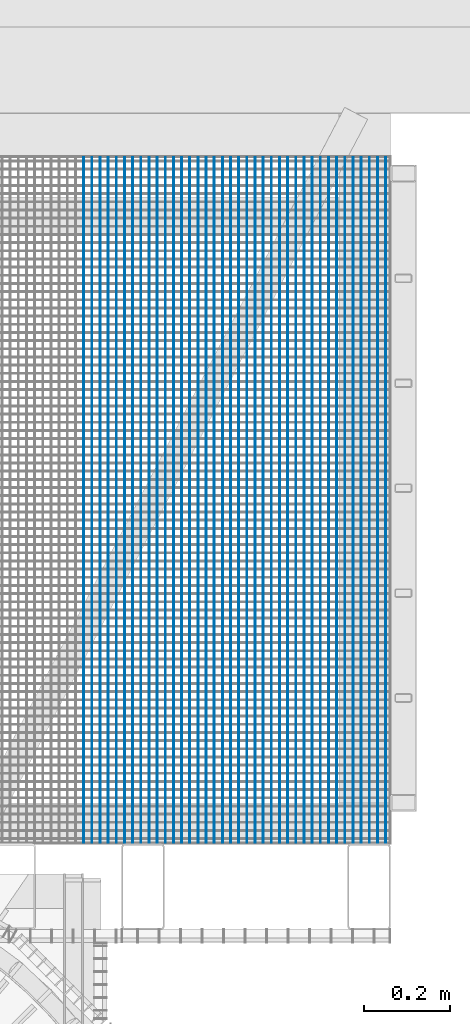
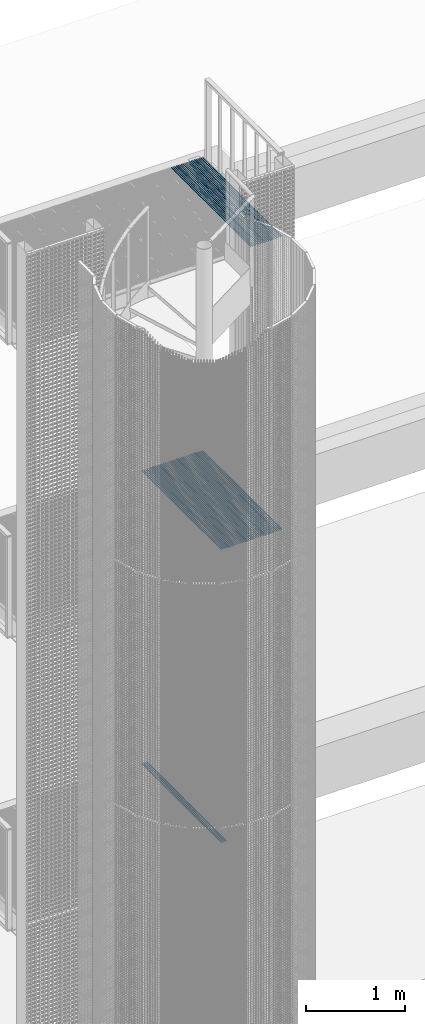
# One storey, part 100 of 1148: 62 beams, 3 elements without a shape of their own.
"""IFC2X3 building model written with IfcOpenShell, lengths in millimetres."""

import ifcopenshell
import ifcopenshell.guid

model = None  # the IFC model being written
_history = None  # IfcOwnerHistory: only IFC2X3 demands one
_inside = {}  # id of a spatial element -> (the spatial element, [elements in it])
_under = {}  # id of a project, library or spatial element -> (it, [spatial elements below it])
_declared = {}  # id of a project -> (the project, [libraries it declares])
_typed = {}  # id of a type object -> (the type object, [elements of that type])
_made_of = {}  # id of a material, layer set ... -> (it, [elements and type objects made of it])


def new_model(schema):
    """Start an empty IFC model of exactly this schema.

    Asked for "IFC4X3", IfcOpenShell would pick the latest addendum, in which some entities
    have other attributes; the version numbers below select the first issue.
    IFC2X3 requires an IfcOwnerHistory on every rooted entity: one is made here for all.
    """
    global model, _history
    if schema == "IFC4X3":
        model = ifcopenshell.file(schema_version=(4, 3, 0, 0))
    else:
        model = ifcopenshell.file(schema=schema)
    _inside.clear()
    _under.clear()
    _declared.clear()
    _typed.clear()
    _made_of.clear()
    _history = None
    if model.schema == "IFC2X3":
        org = make("IfcOrganization", Name="unknown")
        user = make(
            "IfcPersonAndOrganization",
            ThePerson=make("IfcPerson", FamilyName="unknown"),
            TheOrganization=org,
        )
        app = make(
            "IfcApplication",
            ApplicationDeveloper=org,
            Version="unknown",
            ApplicationFullName="unknown",
            ApplicationIdentifier="unknown",
        )
        _history = make(
            "IfcOwnerHistory",
            OwningUser=user,
            OwningApplication=app,
            ChangeAction="ADDED",
            CreationDate=0,
        )
    return model


def make(cls, **values):
    """One entity of the class cls with the attributes given. An attribute that is None is left unset."""
    return model.create_entity(
        cls, **{name: value for name, value in values.items() if value is not None}
    )


def rooted(cls, **values):
    """An entity with a GlobalId (a new one), such as an element, a storey or a relation."""
    return make(cls, GlobalId=ifcopenshell.guid.new(), OwnerHistory=_history, **values)


def si_unit(unit_type, name, prefix=None):
    """IfcSIUnit, for example si_unit("LENGTHUNIT", "METRE", prefix="MILLI")."""
    return make("IfcSIUnit", UnitType=unit_type, Prefix=prefix, Name=name)


def assignment(units):
    """IfcUnitAssignment: the units of a project."""
    return None if units is None else make("IfcUnitAssignment", Units=units)


def point(xyz):
    """IfcCartesianPoint."""
    return None if xyz is None else make("IfcCartesianPoint", Coordinates=xyz)


def direction(xyz):
    """IfcDirection."""
    return None if xyz is None else make("IfcDirection", DirectionRatios=xyz)


def frame(location, z_axis=None, x_axis=None):
    """IfcAxis2Placement3D, a coordinate frame: its origin and axes. An axis left out is left unset."""
    return make(
        "IfcAxis2Placement3D",
        Location=point(location),
        Axis=direction(z_axis),
        RefDirection=direction(x_axis),
    )


def frame_2d(location, x_axis=None):
    """IfcAxis2Placement2D, a coordinate frame in the plane: its origin and x axis."""
    return make(
        "IfcAxis2Placement2D", Location=point(location), RefDirection=direction(x_axis)
    )


def origin_with_axes():
    """The frame at (0, 0, 0) with the z axis (0, 0, 1) and the x axis (1, 0, 0) written out."""
    return frame((0.0, 0.0, 0.0), z_axis=(0.0, 0.0, 1.0), x_axis=(1.0, 0.0, 0.0))


def origin_2d_with_axis():
    """The frame at (0, 0) in the plane with the x axis (1, 0) written out."""
    return frame_2d((0.0, 0.0), x_axis=(1.0, 0.0))


def place(relative_to, where):
    """IfcLocalPlacement: puts the frame where relative to a parent placement (None: the world)."""
    return make(
        "IfcLocalPlacement", PlacementRelTo=relative_to, RelativePlacement=where
    )


def context(
    kind, dimensions, precision=None, world=None, true_north=None, identifier=None
):
    """IfcGeometricRepresentationContext, for example the 3D "Model" context."""
    return make(
        "IfcGeometricRepresentationContext",
        ContextIdentifier=identifier,
        ContextType=kind,
        CoordinateSpaceDimension=dimensions,
        Precision=precision,
        WorldCoordinateSystem=world,
        TrueNorth=true_north,
    )


def subcontext(parent, identifier, kind, view, scale=None):
    """IfcGeometricRepresentationSubContext, for example "Body" below "Model"."""
    return make(
        "IfcGeometricRepresentationSubContext",
        ContextIdentifier=identifier,
        ContextType=kind,
        ParentContext=parent,
        TargetScale=scale,
        TargetView=view,
    )


def project(units=None, contexts=None):
    """IfcProject with its units and contexts."""
    return rooted(
        "IfcProject",
        Name="project",
        RepresentationContexts=contexts,
        UnitsInContext=assignment(units),
    )


def spatial(cls, under=None, at=None, **own):
    """A site, building, storey or space (cls), placed at a placement, below another one or the project."""
    s = rooted(cls, ObjectPlacement=at, **own)
    if under is not None:
        _under.setdefault(under.id(), (under, []))[1].append(s)
    return s


def profile(cls, at=None, kind="AREA", **sizes):
    """A parametric profile (cls). Its sizes go by their IFC names, for example OverallWidth=200.0."""
    return make(cls, ProfileType=kind, Position=at, **sizes)


def rectangle(**sizes):
    """IfcRectangleProfileDef."""
    return profile("IfcRectangleProfileDef", **sizes)


def extrude(swept, where, along, depth):
    """IfcExtrudedAreaSolid: the profile swept, set in the frame where, extruded along a direction by depth."""
    return make(
        "IfcExtrudedAreaSolid",
        SweptArea=swept,
        Position=where,
        ExtrudedDirection=direction(along),
        Depth=depth,
    )


def shape(context_of_items, identifier, shape_type, items):
    """IfcShapeRepresentation: the items that make up one representation, for example the "Body"."""
    return make(
        "IfcShapeRepresentation",
        ContextOfItems=context_of_items,
        RepresentationIdentifier=identifier,
        RepresentationType=shape_type,
        Items=items,
    )


def material(Name=None, Category=None):
    """IfcMaterial."""
    return make("IfcMaterial", Name=Name, Category=Category)


def made_of(thing, what):
    """Note that an element or type object is made of a material, layer set ...; save() writes the relation."""
    if what is not None:
        _made_of.setdefault(what.id(), (what, []))[1].append(thing)
    return thing


def type_object(cls, material=None, **own):
    """A type object (cls), such as IfcWallType, which elements share."""
    return made_of(rooted(cls, **own), material)


def element(
    cls,
    number,
    at=None,
    inside=None,
    cuts=None,
    type_object=None,
    material=None,
    context=None,
    identifier="Body",
    shape_type=None,
    held_by="IfcProductDefinitionShape",
    body=None,
    shapes=None,
    **own,
):
    """One element of the class cls, such as IfcWall. Its Tag is "e" and its number.

    at: its placement. inside: the storey or other place that contains it. cuts: it is an
    opening in that element (IfcRelVoidsElement). A single representation is given by context,
    identifier, shape_type and body (its items); several are given by shapes. held_by: the class
    of the entity that holds the representations. save() writes the other relations.
    """
    e = rooted(cls, Tag="e%d" % number, ObjectPlacement=at, **own)
    if body is not None:
        shapes = [shape(context, identifier, shape_type, body)]
    if shapes is not None:
        e.Representation = make(held_by, Representations=shapes)
    if inside is not None:
        _inside.setdefault(inside.id(), (inside, []))[1].append(e)
    if cuts is not None:
        rooted(
            "IfcRelVoidsElement", RelatingBuildingElement=cuts, RelatedOpeningElement=e
        )
    if type_object is not None:
        _typed.setdefault(type_object.id(), (type_object, []))[1].append(e)
    return made_of(e, material)


def aggregate(whole, parts):
    """IfcRelAggregates: a whole, such as a stair, and the parts it consists of."""
    return rooted("IfcRelAggregates", RelatingObject=whole, RelatedObjects=parts)


def save(model, path):
    """Write the relations noted so far, then the file.

    IfcRelAggregates (storeys below a building ...), IfcRelContainedInSpatialStructure (elements
    in a storey), IfcRelDefinesByType, IfcRelAssociatesMaterial and IfcRelDeclares: one each for
    every whole, place, type object, material and project.
    """
    for whole, parts in _under.values():
        aggregate(whole, parts)
    for where, things in _inside.values():
        rooted(
            "IfcRelContainedInSpatialStructure",
            RelatedElements=things,
            RelatingStructure=where,
        )
    for kind, things in _typed.values():
        rooted("IfcRelDefinesByType", RelatedObjects=things, RelatingType=kind)
    for what, things in _made_of.values():
        rooted("IfcRelAssociatesMaterial", RelatedObjects=things, RelatingMaterial=what)
    for by, libraries in _declared.values():
        rooted("IfcRelDeclares", RelatingContext=by, RelatedDefinitions=libraries)
    model.write(path)


model = new_model("IFC2X3")

# Units and contexts
model_context = context("Model", 3, precision=1e-05, world=origin_with_axes())
body_context = subcontext(model_context, "Body", "Model", "MODEL_VIEW")
ifc_project = project(units=[si_unit("LENGTHUNIT", "METRE", prefix="MILLI"), si_unit("AREAUNIT", "SQUARE_METRE"), si_unit("VOLUMEUNIT", "CUBIC_METRE"), si_unit("MASSUNIT", "GRAM", prefix="KILO"), si_unit("TIMEUNIT", "SECOND"), si_unit("PLANEANGLEUNIT", "RADIAN"), si_unit("SOLIDANGLEUNIT", "STERADIAN"), si_unit("THERMODYNAMICTEMPERATUREUNIT", "DEGREE_CELSIUS"), si_unit("LUMINOUSINTENSITYUNIT", "LUMEN")], contexts=[model_context])

# Site, building, storey
site_placement = place(None, origin_with_axes())
site = spatial("IfcSite", under=ifc_project, at=site_placement, Name="Undefined", CompositionType="ELEMENT")
building_placement = place(site_placement, origin_with_axes())
building = spatial("IfcBuilding", under=site, at=building_placement, Name="Undefined", CompositionType="ELEMENT")
storey_placement = place(building_placement, origin_with_axes())
storey = spatial("IfcBuildingStorey", under=building, at=storey_placement, Name="Undefined", CompositionType="ELEMENT", Elevation=0.0)

# Assembly, beams
assembly_1_placement = place(storey_placement, origin_with_axes())
assembly_1 = element("IfcElementAssembly", 1, at=assembly_1_placement, inside=storey, Name="BORDURE", AssemblyPlace="NOTDEFINED", PredefinedType="NOTDEFINED")
ifc_material = material(Name="STEEL/S235JR")
beam_type = type_object("IfcBeamType", Name="PL2*10", PredefinedType="NOTDEFINED")
beam_1_placement = place(assembly_1_placement, frame((22778.1154247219, 1102.00811713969, 17285.0), z_axis=(0.0, 0.0, 1.0), x_axis=(-4.50599999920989e-06, 0.999999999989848, 0.0)))
beam_1 = element("IfcBeam", 2, at=beam_1_placement, type_object=beam_type, material=ifc_material, Name="ENTRETOISE", context=body_context, shape_type="SweptSolid", body=[
    extrude(rectangle(XDim=2.0, YDim=10.0, at=origin_2d_with_axis()), frame((1596.0000000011, -1.35186458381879e-18, -7.27595761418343e-12), z_axis=(-1.0, 0.0, 0.0), x_axis=(0.0, -1.0, 0.0)), (0.0, 0.0, 1.0), 1596.0),
])
beam_2_placement = place(assembly_1_placement, frame((22797.1154247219, 1102.00821065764, 17285.0), z_axis=(0.0, 0.0, 1.0), x_axis=(-4.50599999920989e-06, 0.999999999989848, 0.0)))
beam_2 = element("IfcBeam", 3, at=beam_2_placement, type_object=beam_type, material=ifc_material, Name="ENTRETOISE", context=body_context, shape_type="SweptSolid", body=[
    extrude(rectangle(XDim=2.0, YDim=10.0, at=origin_2d_with_axis()), frame((1596.0000000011, -1.35186458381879e-18, -7.27595761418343e-12), z_axis=(-1.0, 0.0, 0.0), x_axis=(0.0, -1.0, 0.0)), (0.0, 0.0, 1.0), 1596.0),
])
beam_3_placement = place(assembly_1_placement, frame((22816.1154247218, 1102.00830417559, 17285.0), z_axis=(0.0, 0.0, 1.0), x_axis=(-4.50599999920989e-06, 0.999999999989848, 0.0)))
beam_3 = element("IfcBeam", 4, at=beam_3_placement, type_object=beam_type, material=ifc_material, Name="ENTRETOISE", context=body_context, shape_type="SweptSolid", body=[
    extrude(rectangle(XDim=2.0, YDim=10.0, at=origin_2d_with_axis()), frame((1596.0000000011, -1.35186458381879e-18, -7.27595761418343e-12), z_axis=(-1.0, 0.0, 0.0), x_axis=(0.0, -1.0, 0.0)), (0.0, 0.0, 1.0), 1596.0),
])
beam_4_placement = place(assembly_1_placement, frame((22835.1154247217, 1102.00839769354, 17285.0), z_axis=(0.0, 0.0, 1.0), x_axis=(-4.50599999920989e-06, 0.999999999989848, 0.0)))
beam_4 = element("IfcBeam", 5, at=beam_4_placement, type_object=beam_type, material=ifc_material, Name="ENTRETOISE", context=body_context, shape_type="SweptSolid", body=[
    extrude(rectangle(XDim=2.0, YDim=10.0, at=origin_2d_with_axis()), frame((1596.0000000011, -1.35186458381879e-18, -7.27595761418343e-12), z_axis=(-1.0, 0.0, 0.0), x_axis=(0.0, -1.0, 0.0)), (0.0, 0.0, 1.0), 1596.0),
])
beam_5_placement = place(assembly_1_placement, frame((22854.1154247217, 1102.00849121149, 17285.0), z_axis=(0.0, 0.0, 1.0), x_axis=(-4.50599999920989e-06, 0.999999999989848, 0.0)))
beam_5 = element("IfcBeam", 6, at=beam_5_placement, type_object=beam_type, material=ifc_material, Name="ENTRETOISE", context=body_context, shape_type="SweptSolid", body=[
    extrude(rectangle(XDim=2.0, YDim=10.0, at=origin_2d_with_axis()), frame((1596.0000000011, -1.35186458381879e-18, -7.27595761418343e-12), z_axis=(-1.0, 0.0, 0.0), x_axis=(0.0, -1.0, 0.0)), (0.0, 0.0, 1.0), 1596.0),
])
beam_6_placement = place(assembly_1_placement, frame((22873.1154247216, 1102.00858472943, 17285.0), z_axis=(0.0, 0.0, 1.0), x_axis=(-4.50599999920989e-06, 0.999999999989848, 0.0)))
beam_6 = element("IfcBeam", 7, at=beam_6_placement, type_object=beam_type, material=ifc_material, Name="ENTRETOISE", context=body_context, shape_type="SweptSolid", body=[
    extrude(rectangle(XDim=2.0, YDim=10.0, at=origin_2d_with_axis()), frame((1596.0000000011, -1.35186458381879e-18, -7.27595761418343e-12), z_axis=(-1.0, 0.0, 0.0), x_axis=(0.0, -1.0, 0.0)), (0.0, 0.0, 1.0), 1596.0),
])
beam_7_placement = place(assembly_1_placement, frame((22892.1154247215, 1102.00867824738, 17285.0), z_axis=(0.0, 0.0, 1.0), x_axis=(-4.50599999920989e-06, 0.999999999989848, 0.0)))
beam_7 = element("IfcBeam", 8, at=beam_7_placement, type_object=beam_type, material=ifc_material, Name="ENTRETOISE", context=body_context, shape_type="SweptSolid", body=[
    extrude(rectangle(XDim=2.0, YDim=10.0, at=origin_2d_with_axis()), frame((1596.0000000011, -1.35186458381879e-18, -7.27595761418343e-12), z_axis=(-1.0, 0.0, 0.0), x_axis=(0.0, -1.0, 0.0)), (0.0, 0.0, 1.0), 1596.0),
])
beam_8_placement = place(assembly_1_placement, frame((22911.1154247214, 1102.00877176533, 17285.0), z_axis=(0.0, 0.0, 1.0), x_axis=(-4.50599999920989e-06, 0.999999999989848, 0.0)))
beam_8 = element("IfcBeam", 9, at=beam_8_placement, type_object=beam_type, material=ifc_material, Name="ENTRETOISE", context=body_context, shape_type="SweptSolid", body=[
    extrude(rectangle(XDim=2.0, YDim=10.0, at=origin_2d_with_axis()), frame((1596.0000000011, -1.35186458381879e-18, -7.27595761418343e-12), z_axis=(-1.0, 0.0, 0.0), x_axis=(0.0, -1.0, 0.0)), (0.0, 0.0, 1.0), 1596.0),
])
beam_9_placement = place(assembly_1_placement, frame((22930.1154247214, 1102.00886528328, 17285.0), z_axis=(0.0, 0.0, 1.0), x_axis=(-4.50599999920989e-06, 0.999999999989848, 0.0)))
beam_9 = element("IfcBeam", 10, at=beam_9_placement, type_object=beam_type, material=ifc_material, Name="ENTRETOISE", context=body_context, shape_type="SweptSolid", body=[
    extrude(rectangle(XDim=2.0, YDim=10.0, at=origin_2d_with_axis()), frame((1596.0000000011, -1.35186458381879e-18, -7.27595761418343e-12), z_axis=(-1.0, 0.0, 0.0), x_axis=(0.0, -1.0, 0.0)), (0.0, 0.0, 1.0), 1596.0),
])
beam_10_placement = place(assembly_1_placement, frame((22949.1154247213, 1102.00895880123, 17285.0), z_axis=(0.0, 0.0, 1.0), x_axis=(-4.50599999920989e-06, 0.999999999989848, 0.0)))
beam_10 = element("IfcBeam", 11, at=beam_10_placement, type_object=beam_type, material=ifc_material, Name="ENTRETOISE", context=body_context, shape_type="SweptSolid", body=[
    extrude(rectangle(XDim=2.0, YDim=10.0, at=origin_2d_with_axis()), frame((1596.0000000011, -1.35186458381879e-18, -7.27595761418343e-12), z_axis=(-1.0, 0.0, 0.0), x_axis=(0.0, -1.0, 0.0)), (0.0, 0.0, 1.0), 1596.0),
])
beam_11_placement = place(assembly_1_placement, frame((22968.1154247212, 1102.00905231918, 17285.0), z_axis=(0.0, 0.0, 1.0), x_axis=(-4.50599999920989e-06, 0.999999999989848, 0.0)))
beam_11 = element("IfcBeam", 12, at=beam_11_placement, type_object=beam_type, material=ifc_material, Name="ENTRETOISE", context=body_context, shape_type="SweptSolid", body=[
    extrude(rectangle(XDim=2.0, YDim=10.0, at=origin_2d_with_axis()), frame((1596.0000000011, -1.35186458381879e-18, -7.27595761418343e-12), z_axis=(-1.0, 0.0, 0.0), x_axis=(0.0, -1.0, 0.0)), (0.0, 0.0, 1.0), 1596.0),
])
beam_12_placement = place(assembly_1_placement, frame((22987.1154247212, 1102.00914583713, 17285.0), z_axis=(0.0, 0.0, 1.0), x_axis=(-4.50599999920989e-06, 0.999999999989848, 0.0)))
beam_12 = element("IfcBeam", 13, at=beam_12_placement, type_object=beam_type, material=ifc_material, Name="ENTRETOISE", context=body_context, shape_type="SweptSolid", body=[
    extrude(rectangle(XDim=2.0, YDim=10.0, at=origin_2d_with_axis()), frame((1596.0000000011, -1.35186458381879e-18, -7.27595761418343e-12), z_axis=(-1.0, 0.0, 0.0), x_axis=(0.0, -1.0, 0.0)), (0.0, 0.0, 1.0), 1596.0),
])
beam_13_placement = place(assembly_1_placement, frame((23006.1154247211, 1102.00923935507, 17285.0), z_axis=(0.0, 0.0, 1.0), x_axis=(-4.50599999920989e-06, 0.999999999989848, 0.0)))
beam_13 = element("IfcBeam", 14, at=beam_13_placement, type_object=beam_type, material=ifc_material, Name="ENTRETOISE", context=body_context, shape_type="SweptSolid", body=[
    extrude(rectangle(XDim=2.0, YDim=10.0, at=origin_2d_with_axis()), frame((1596.0000000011, -1.35186458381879e-18, -7.27595761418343e-12), z_axis=(-1.0, 0.0, 0.0), x_axis=(0.0, -1.0, 0.0)), (0.0, 0.0, 1.0), 1596.0),
])
beam_14_placement = place(assembly_1_placement, frame((23025.115424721, 1102.00933287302, 17285.0), z_axis=(0.0, 0.0, 1.0), x_axis=(-4.50599999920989e-06, 0.999999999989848, 0.0)))
beam_14 = element("IfcBeam", 15, at=beam_14_placement, type_object=beam_type, material=ifc_material, Name="ENTRETOISE", context=body_context, shape_type="SweptSolid", body=[
    extrude(rectangle(XDim=2.0, YDim=10.0, at=origin_2d_with_axis()), frame((1596.0000000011, -1.35186458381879e-18, -7.27595761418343e-12), z_axis=(-1.0, 0.0, 0.0), x_axis=(0.0, -1.0, 0.0)), (0.0, 0.0, 1.0), 1596.0),
])
beam_15_placement = place(assembly_1_placement, frame((23044.1154247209, 1102.00942639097, 17285.0), z_axis=(0.0, 0.0, 1.0), x_axis=(-4.50599999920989e-06, 0.999999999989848, 0.0)))
beam_15 = element("IfcBeam", 16, at=beam_15_placement, type_object=beam_type, material=ifc_material, Name="ENTRETOISE", context=body_context, shape_type="SweptSolid", body=[
    extrude(rectangle(XDim=2.0, YDim=10.0, at=origin_2d_with_axis()), frame((1596.0000000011, -1.35186458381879e-18, -7.27595761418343e-12), z_axis=(-1.0, 0.0, 0.0), x_axis=(0.0, -1.0, 0.0)), (0.0, 0.0, 1.0), 1596.0),
])
beam_16_placement = place(assembly_1_placement, frame((23063.1154247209, 1102.00951990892, 17285.0), z_axis=(0.0, 0.0, 1.0), x_axis=(-4.50599999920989e-06, 0.999999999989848, 0.0)))
beam_16 = element("IfcBeam", 17, at=beam_16_placement, type_object=beam_type, material=ifc_material, Name="ENTRETOISE", context=body_context, shape_type="SweptSolid", body=[
    extrude(rectangle(XDim=2.0, YDim=10.0, at=origin_2d_with_axis()), frame((1596.0000000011, -1.35186458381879e-18, -7.27595761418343e-12), z_axis=(-1.0, 0.0, 0.0), x_axis=(0.0, -1.0, 0.0)), (0.0, 0.0, 1.0), 1596.0),
])
beam_17_placement = place(assembly_1_placement, frame((23082.1154247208, 1102.00961342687, 17285.0), z_axis=(0.0, 0.0, 1.0), x_axis=(-4.50599999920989e-06, 0.999999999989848, 0.0)))
beam_17 = element("IfcBeam", 18, at=beam_17_placement, type_object=beam_type, material=ifc_material, Name="ENTRETOISE", context=body_context, shape_type="SweptSolid", body=[
    extrude(rectangle(XDim=2.0, YDim=10.0, at=origin_2d_with_axis()), frame((1596.0000000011, -1.35186458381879e-18, -7.27595761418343e-12), z_axis=(-1.0, 0.0, 0.0), x_axis=(0.0, -1.0, 0.0)), (0.0, 0.0, 1.0), 1596.0),
])
beam_18_placement = place(assembly_1_placement, frame((23101.1154247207, 1102.00970694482, 17285.0), z_axis=(0.0, 0.0, 1.0), x_axis=(-4.50599999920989e-06, 0.999999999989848, 0.0)))
beam_18 = element("IfcBeam", 19, at=beam_18_placement, type_object=beam_type, material=ifc_material, Name="ENTRETOISE", context=body_context, shape_type="SweptSolid", body=[
    extrude(rectangle(XDim=2.0, YDim=10.0, at=origin_2d_with_axis()), frame((1596.0000000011, -1.35186458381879e-18, -7.27595761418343e-12), z_axis=(-1.0, 0.0, 0.0), x_axis=(0.0, -1.0, 0.0)), (0.0, 0.0, 1.0), 1596.0),
])
beam_19_placement = place(assembly_1_placement, frame((23120.1154247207, 1102.00980046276, 17285.0), z_axis=(0.0, 0.0, 1.0), x_axis=(-4.50599999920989e-06, 0.999999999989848, 0.0)))
beam_19 = element("IfcBeam", 20, at=beam_19_placement, type_object=beam_type, material=ifc_material, Name="ENTRETOISE", context=body_context, shape_type="SweptSolid", body=[
    extrude(rectangle(XDim=2.0, YDim=10.0, at=origin_2d_with_axis()), frame((1596.0000000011, -1.35186458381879e-18, -7.27595761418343e-12), z_axis=(-1.0, 0.0, 0.0), x_axis=(0.0, -1.0, 0.0)), (0.0, 0.0, 1.0), 1596.0),
])
beam_20_placement = place(assembly_1_placement, frame((23139.1154247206, 1102.00989398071, 17285.0), z_axis=(0.0, 0.0, 1.0), x_axis=(-4.50599999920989e-06, 0.999999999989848, 0.0)))
beam_20 = element("IfcBeam", 21, at=beam_20_placement, type_object=beam_type, material=ifc_material, Name="ENTRETOISE", context=body_context, shape_type="SweptSolid", body=[
    extrude(rectangle(XDim=2.0, YDim=10.0, at=origin_2d_with_axis()), frame((1596.0000000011, -1.35186458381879e-18, -7.27595761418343e-12), z_axis=(-1.0, 0.0, 0.0), x_axis=(0.0, -1.0, 0.0)), (0.0, 0.0, 1.0), 1596.0),
])
aggregate(assembly_1, [beam_1, beam_2, beam_3, beam_4, beam_5, beam_6, beam_7, beam_8, beam_9, beam_10, beam_11, beam_12, beam_13, beam_14, beam_15, beam_16, beam_17, beam_18, beam_19, beam_20])

assembly_2_placement = place(storey_placement, origin_with_axes())
assembly_2 = element("IfcElementAssembly", 22, at=assembly_2_placement, inside=storey, Name="BORDURE", AssemblyPlace="NOTDEFINED", PredefinedType="NOTDEFINED")
beam_21_placement = place(assembly_2_placement, frame((22436.1154247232, 1102.00643381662, 13685.0), z_axis=(0.0, 0.0, 1.0), x_axis=(-4.50599999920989e-06, 0.999999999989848, 0.0)))
beam_21 = element("IfcBeam", 23, at=beam_21_placement, type_object=beam_type, material=ifc_material, Name="ENTRETOISE", context=body_context, shape_type="SweptSolid", body=[
    extrude(rectangle(XDim=2.0, YDim=10.0, at=origin_2d_with_axis()), frame((1596.0000000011, -1.35186458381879e-18, -7.27595761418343e-12), z_axis=(-1.0, 0.0, 0.0), x_axis=(0.0, -1.0, 0.0)), (0.0, 0.0, 1.0), 1596.0),
])
beam_22_placement = place(assembly_2_placement, frame((22455.1154247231, 1102.00652733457, 13685.0), z_axis=(0.0, 0.0, 1.0), x_axis=(-4.50599999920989e-06, 0.999999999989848, 0.0)))
beam_22 = element("IfcBeam", 24, at=beam_22_placement, type_object=beam_type, material=ifc_material, Name="ENTRETOISE", context=body_context, shape_type="SweptSolid", body=[
    extrude(rectangle(XDim=2.0, YDim=10.0, at=origin_2d_with_axis()), frame((1596.0000000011, -1.35186458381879e-18, -7.27595761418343e-12), z_axis=(-1.0, 0.0, 0.0), x_axis=(0.0, -1.0, 0.0)), (0.0, 0.0, 1.0), 1596.0),
])
beam_23_placement = place(assembly_2_placement, frame((22474.1154247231, 1102.00662085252, 13685.0), z_axis=(0.0, 0.0, 1.0), x_axis=(-4.50599999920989e-06, 0.999999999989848, 0.0)))
beam_23 = element("IfcBeam", 25, at=beam_23_placement, type_object=beam_type, material=ifc_material, Name="ENTRETOISE", context=body_context, shape_type="SweptSolid", body=[
    extrude(rectangle(XDim=2.0, YDim=10.0, at=origin_2d_with_axis()), frame((1596.0000000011, -1.35186458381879e-18, -7.27595761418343e-12), z_axis=(-1.0, 0.0, 0.0), x_axis=(0.0, -1.0, 0.0)), (0.0, 0.0, 1.0), 1596.0),
])
beam_24_placement = place(assembly_2_placement, frame((22493.115424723, 1102.00671437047, 13685.0), z_axis=(0.0, 0.0, 1.0), x_axis=(-4.50599999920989e-06, 0.999999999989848, 0.0)))
beam_24 = element("IfcBeam", 26, at=beam_24_placement, type_object=beam_type, material=ifc_material, Name="ENTRETOISE", context=body_context, shape_type="SweptSolid", body=[
    extrude(rectangle(XDim=2.0, YDim=10.0, at=origin_2d_with_axis()), frame((1596.0000000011, -1.35186458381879e-18, -7.27595761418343e-12), z_axis=(-1.0, 0.0, 0.0), x_axis=(0.0, -1.0, 0.0)), (0.0, 0.0, 1.0), 1596.0),
])
beam_25_placement = place(assembly_2_placement, frame((22512.1154247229, 1102.00680788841, 13685.0), z_axis=(0.0, 0.0, 1.0), x_axis=(-4.50599999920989e-06, 0.999999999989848, 0.0)))
beam_25 = element("IfcBeam", 27, at=beam_25_placement, type_object=beam_type, material=ifc_material, Name="ENTRETOISE", context=body_context, shape_type="SweptSolid", body=[
    extrude(rectangle(XDim=2.0, YDim=10.0, at=origin_2d_with_axis()), frame((1596.0000000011, -1.35186458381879e-18, -7.27595761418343e-12), z_axis=(-1.0, 0.0, 0.0), x_axis=(0.0, -1.0, 0.0)), (0.0, 0.0, 1.0), 1596.0),
])
beam_26_placement = place(assembly_2_placement, frame((22531.1154247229, 1102.00690140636, 13685.0), z_axis=(0.0, 0.0, 1.0), x_axis=(-4.50599999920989e-06, 0.999999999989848, 0.0)))
beam_26 = element("IfcBeam", 28, at=beam_26_placement, type_object=beam_type, material=ifc_material, Name="ENTRETOISE", context=body_context, shape_type="SweptSolid", body=[
    extrude(rectangle(XDim=2.0, YDim=10.0, at=origin_2d_with_axis()), frame((1596.0000000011, -1.35186458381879e-18, -7.27595761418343e-12), z_axis=(-1.0, 0.0, 0.0), x_axis=(0.0, -1.0, 0.0)), (0.0, 0.0, 1.0), 1596.0),
])
beam_27_placement = place(assembly_2_placement, frame((22550.1154247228, 1102.00699492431, 13685.0), z_axis=(0.0, 0.0, 1.0), x_axis=(-4.50599999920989e-06, 0.999999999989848, 0.0)))
beam_27 = element("IfcBeam", 29, at=beam_27_placement, type_object=beam_type, material=ifc_material, Name="ENTRETOISE", context=body_context, shape_type="SweptSolid", body=[
    extrude(rectangle(XDim=2.0, YDim=10.0, at=origin_2d_with_axis()), frame((1596.0000000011, -1.35186458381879e-18, -7.27595761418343e-12), z_axis=(-1.0, 0.0, 0.0), x_axis=(0.0, -1.0, 0.0)), (0.0, 0.0, 1.0), 1596.0),
])
beam_28_placement = place(assembly_2_placement, frame((22569.1154247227, 1102.00708844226, 13685.0), z_axis=(0.0, 0.0, 1.0), x_axis=(-4.50599999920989e-06, 0.999999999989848, 0.0)))
beam_28 = element("IfcBeam", 30, at=beam_28_placement, type_object=beam_type, material=ifc_material, Name="ENTRETOISE", context=body_context, shape_type="SweptSolid", body=[
    extrude(rectangle(XDim=2.0, YDim=10.0, at=origin_2d_with_axis()), frame((1596.0000000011, -1.35186458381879e-18, -7.27595761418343e-12), z_axis=(-1.0, 0.0, 0.0), x_axis=(0.0, -1.0, 0.0)), (0.0, 0.0, 1.0), 1596.0),
])
beam_29_placement = place(assembly_2_placement, frame((22588.1154247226, 1102.00718196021, 13685.0), z_axis=(0.0, 0.0, 1.0), x_axis=(-4.50599999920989e-06, 0.999999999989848, 0.0)))
beam_29 = element("IfcBeam", 31, at=beam_29_placement, type_object=beam_type, material=ifc_material, Name="ENTRETOISE", context=body_context, shape_type="SweptSolid", body=[
    extrude(rectangle(XDim=2.0, YDim=10.0, at=origin_2d_with_axis()), frame((1596.0000000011, -1.35186458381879e-18, -7.27595761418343e-12), z_axis=(-1.0, 0.0, 0.0), x_axis=(0.0, -1.0, 0.0)), (0.0, 0.0, 1.0), 1596.0),
])
beam_30_placement = place(assembly_2_placement, frame((22607.1154247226, 1102.00727547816, 13685.0), z_axis=(0.0, 0.0, 1.0), x_axis=(-4.50599999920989e-06, 0.999999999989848, 0.0)))
beam_30 = element("IfcBeam", 32, at=beam_30_placement, type_object=beam_type, material=ifc_material, Name="ENTRETOISE", context=body_context, shape_type="SweptSolid", body=[
    extrude(rectangle(XDim=2.0, YDim=10.0, at=origin_2d_with_axis()), frame((1596.0000000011, -1.35186458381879e-18, -7.27595761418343e-12), z_axis=(-1.0, 0.0, 0.0), x_axis=(0.0, -1.0, 0.0)), (0.0, 0.0, 1.0), 1596.0),
])
beam_31_placement = place(assembly_2_placement, frame((22626.1154247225, 1102.00736899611, 13685.0), z_axis=(0.0, 0.0, 1.0), x_axis=(-4.50599999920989e-06, 0.999999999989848, 0.0)))
beam_31 = element("IfcBeam", 33, at=beam_31_placement, type_object=beam_type, material=ifc_material, Name="ENTRETOISE", context=body_context, shape_type="SweptSolid", body=[
    extrude(rectangle(XDim=2.0, YDim=10.0, at=origin_2d_with_axis()), frame((1596.0000000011, -1.35186458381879e-18, -7.27595761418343e-12), z_axis=(-1.0, 0.0, 0.0), x_axis=(0.0, -1.0, 0.0)), (0.0, 0.0, 1.0), 1596.0),
])
beam_32_placement = place(assembly_2_placement, frame((22645.1154247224, 1102.00746251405, 13685.0), z_axis=(0.0, 0.0, 1.0), x_axis=(-4.50599999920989e-06, 0.999999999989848, 0.0)))
beam_32 = element("IfcBeam", 34, at=beam_32_placement, type_object=beam_type, material=ifc_material, Name="ENTRETOISE", context=body_context, shape_type="SweptSolid", body=[
    extrude(rectangle(XDim=2.0, YDim=10.0, at=origin_2d_with_axis()), frame((1596.0000000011, -1.35186458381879e-18, -7.27595761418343e-12), z_axis=(-1.0, 0.0, 0.0), x_axis=(0.0, -1.0, 0.0)), (0.0, 0.0, 1.0), 1596.0),
])
beam_33_placement = place(assembly_2_placement, frame((22664.1154247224, 1102.007556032, 13685.0), z_axis=(0.0, 0.0, 1.0), x_axis=(-4.50599999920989e-06, 0.999999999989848, 0.0)))
beam_33 = element("IfcBeam", 35, at=beam_33_placement, type_object=beam_type, material=ifc_material, Name="ENTRETOISE", context=body_context, shape_type="SweptSolid", body=[
    extrude(rectangle(XDim=2.0, YDim=10.0, at=origin_2d_with_axis()), frame((1596.0000000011, -1.35186458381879e-18, -7.27595761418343e-12), z_axis=(-1.0, 0.0, 0.0), x_axis=(0.0, -1.0, 0.0)), (0.0, 0.0, 1.0), 1596.0),
])
beam_34_placement = place(assembly_2_placement, frame((22683.1154247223, 1102.00764954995, 13685.0), z_axis=(0.0, 0.0, 1.0), x_axis=(-4.50599999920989e-06, 0.999999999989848, 0.0)))
beam_34 = element("IfcBeam", 36, at=beam_34_placement, type_object=beam_type, material=ifc_material, Name="ENTRETOISE", context=body_context, shape_type="SweptSolid", body=[
    extrude(rectangle(XDim=2.0, YDim=10.0, at=origin_2d_with_axis()), frame((1596.0000000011, -1.35186458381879e-18, -7.27595761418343e-12), z_axis=(-1.0, 0.0, 0.0), x_axis=(0.0, -1.0, 0.0)), (0.0, 0.0, 1.0), 1596.0),
])
beam_35_placement = place(assembly_2_placement, frame((22702.1154247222, 1102.0077430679, 13685.0), z_axis=(0.0, 0.0, 1.0), x_axis=(-4.50599999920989e-06, 0.999999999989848, 0.0)))
beam_35 = element("IfcBeam", 37, at=beam_35_placement, type_object=beam_type, material=ifc_material, Name="ENTRETOISE", context=body_context, shape_type="SweptSolid", body=[
    extrude(rectangle(XDim=2.0, YDim=10.0, at=origin_2d_with_axis()), frame((1596.0000000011, -1.35186458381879e-18, -7.27595761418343e-12), z_axis=(-1.0, 0.0, 0.0), x_axis=(0.0, -1.0, 0.0)), (0.0, 0.0, 1.0), 1596.0),
])
beam_36_placement = place(assembly_2_placement, frame((22721.1154247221, 1102.00783658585, 13685.0), z_axis=(0.0, 0.0, 1.0), x_axis=(-4.50599999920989e-06, 0.999999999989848, 0.0)))
beam_36 = element("IfcBeam", 38, at=beam_36_placement, type_object=beam_type, material=ifc_material, Name="ENTRETOISE", context=body_context, shape_type="SweptSolid", body=[
    extrude(rectangle(XDim=2.0, YDim=10.0, at=origin_2d_with_axis()), frame((1596.0000000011, -1.35186458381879e-18, -7.27595761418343e-12), z_axis=(-1.0, 0.0, 0.0), x_axis=(0.0, -1.0, 0.0)), (0.0, 0.0, 1.0), 1596.0),
])
beam_37_placement = place(assembly_2_placement, frame((22740.1154247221, 1102.0079301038, 13685.0), z_axis=(0.0, 0.0, 1.0), x_axis=(-4.50599999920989e-06, 0.999999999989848, 0.0)))
beam_37 = element("IfcBeam", 39, at=beam_37_placement, type_object=beam_type, material=ifc_material, Name="ENTRETOISE", context=body_context, shape_type="SweptSolid", body=[
    extrude(rectangle(XDim=2.0, YDim=10.0, at=origin_2d_with_axis()), frame((1596.0000000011, -1.35186458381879e-18, -7.27595761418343e-12), z_axis=(-1.0, 0.0, 0.0), x_axis=(0.0, -1.0, 0.0)), (0.0, 0.0, 1.0), 1596.0),
])
beam_38_placement = place(assembly_2_placement, frame((22759.115424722, 1102.00802362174, 13685.0), z_axis=(0.0, 0.0, 1.0), x_axis=(-4.50599999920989e-06, 0.999999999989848, 0.0)))
beam_38 = element("IfcBeam", 40, at=beam_38_placement, type_object=beam_type, material=ifc_material, Name="ENTRETOISE", context=body_context, shape_type="SweptSolid", body=[
    extrude(rectangle(XDim=2.0, YDim=10.0, at=origin_2d_with_axis()), frame((1596.0000000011, -1.35186458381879e-18, -7.27595761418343e-12), z_axis=(-1.0, 0.0, 0.0), x_axis=(0.0, -1.0, 0.0)), (0.0, 0.0, 1.0), 1596.0),
])
beam_39_placement = place(assembly_2_placement, frame((22778.1154247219, 1102.00811713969, 13685.0), z_axis=(0.0, 0.0, 1.0), x_axis=(-4.50599999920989e-06, 0.999999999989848, 0.0)))
beam_39 = element("IfcBeam", 41, at=beam_39_placement, type_object=beam_type, material=ifc_material, Name="ENTRETOISE", context=body_context, shape_type="SweptSolid", body=[
    extrude(rectangle(XDim=2.0, YDim=10.0, at=origin_2d_with_axis()), frame((1596.0000000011, -1.35186458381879e-18, -7.27595761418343e-12), z_axis=(-1.0, 0.0, 0.0), x_axis=(0.0, -1.0, 0.0)), (0.0, 0.0, 1.0), 1596.0),
])
beam_40_placement = place(assembly_2_placement, frame((22797.1154247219, 1102.00821065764, 13685.0), z_axis=(0.0, 0.0, 1.0), x_axis=(-4.50599999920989e-06, 0.999999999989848, 0.0)))
beam_40 = element("IfcBeam", 42, at=beam_40_placement, type_object=beam_type, material=ifc_material, Name="ENTRETOISE", context=body_context, shape_type="SweptSolid", body=[
    extrude(rectangle(XDim=2.0, YDim=10.0, at=origin_2d_with_axis()), frame((1596.0000000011, -1.35186458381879e-18, -7.27595761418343e-12), z_axis=(-1.0, 0.0, 0.0), x_axis=(0.0, -1.0, 0.0)), (0.0, 0.0, 1.0), 1596.0),
])
beam_41_placement = place(assembly_2_placement, frame((22816.1154247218, 1102.00830417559, 13685.0), z_axis=(0.0, 0.0, 1.0), x_axis=(-4.50599999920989e-06, 0.999999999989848, 0.0)))
beam_41 = element("IfcBeam", 43, at=beam_41_placement, type_object=beam_type, material=ifc_material, Name="ENTRETOISE", context=body_context, shape_type="SweptSolid", body=[
    extrude(rectangle(XDim=2.0, YDim=10.0, at=origin_2d_with_axis()), frame((1596.0000000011, -1.35186458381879e-18, -7.27595761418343e-12), z_axis=(-1.0, 0.0, 0.0), x_axis=(0.0, -1.0, 0.0)), (0.0, 0.0, 1.0), 1596.0),
])
beam_42_placement = place(assembly_2_placement, frame((22835.1154247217, 1102.00839769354, 13685.0), z_axis=(0.0, 0.0, 1.0), x_axis=(-4.50599999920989e-06, 0.999999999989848, 0.0)))
beam_42 = element("IfcBeam", 44, at=beam_42_placement, type_object=beam_type, material=ifc_material, Name="ENTRETOISE", context=body_context, shape_type="SweptSolid", body=[
    extrude(rectangle(XDim=2.0, YDim=10.0, at=origin_2d_with_axis()), frame((1596.0000000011, -1.35186458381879e-18, -7.27595761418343e-12), z_axis=(-1.0, 0.0, 0.0), x_axis=(0.0, -1.0, 0.0)), (0.0, 0.0, 1.0), 1596.0),
])
beam_43_placement = place(assembly_2_placement, frame((22854.1154247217, 1102.00849121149, 13685.0), z_axis=(0.0, 0.0, 1.0), x_axis=(-4.50599999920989e-06, 0.999999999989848, 0.0)))
beam_43 = element("IfcBeam", 45, at=beam_43_placement, type_object=beam_type, material=ifc_material, Name="ENTRETOISE", context=body_context, shape_type="SweptSolid", body=[
    extrude(rectangle(XDim=2.0, YDim=10.0, at=origin_2d_with_axis()), frame((1596.0000000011, -1.35186458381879e-18, -7.27595761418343e-12), z_axis=(-1.0, 0.0, 0.0), x_axis=(0.0, -1.0, 0.0)), (0.0, 0.0, 1.0), 1596.0),
])
beam_44_placement = place(assembly_2_placement, frame((22873.1154247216, 1102.00858472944, 13685.0), z_axis=(0.0, 0.0, 1.0), x_axis=(-4.50599999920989e-06, 0.999999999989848, 0.0)))
beam_44 = element("IfcBeam", 46, at=beam_44_placement, type_object=beam_type, material=ifc_material, Name="ENTRETOISE", context=body_context, shape_type="SweptSolid", body=[
    extrude(rectangle(XDim=2.0, YDim=10.0, at=origin_2d_with_axis()), frame((1596.0000000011, -1.35186458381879e-18, -7.27595761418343e-12), z_axis=(-1.0, 0.0, 0.0), x_axis=(0.0, -1.0, 0.0)), (0.0, 0.0, 1.0), 1596.0),
])
beam_45_placement = place(assembly_2_placement, frame((22892.1154247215, 1102.00867824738, 13685.0), z_axis=(0.0, 0.0, 1.0), x_axis=(-4.50599999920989e-06, 0.999999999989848, 0.0)))
beam_45 = element("IfcBeam", 47, at=beam_45_placement, type_object=beam_type, material=ifc_material, Name="ENTRETOISE", context=body_context, shape_type="SweptSolid", body=[
    extrude(rectangle(XDim=2.0, YDim=10.0, at=origin_2d_with_axis()), frame((1596.0000000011, -1.35186458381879e-18, -7.27595761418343e-12), z_axis=(-1.0, 0.0, 0.0), x_axis=(0.0, -1.0, 0.0)), (0.0, 0.0, 1.0), 1596.0),
])
beam_46_placement = place(assembly_2_placement, frame((22911.1154247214, 1102.00877176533, 13685.0), z_axis=(0.0, 0.0, 1.0), x_axis=(-4.50599999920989e-06, 0.999999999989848, 0.0)))
beam_46 = element("IfcBeam", 48, at=beam_46_placement, type_object=beam_type, material=ifc_material, Name="ENTRETOISE", context=body_context, shape_type="SweptSolid", body=[
    extrude(rectangle(XDim=2.0, YDim=10.0, at=origin_2d_with_axis()), frame((1596.0000000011, -1.35186458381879e-18, -7.27595761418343e-12), z_axis=(-1.0, 0.0, 0.0), x_axis=(0.0, -1.0, 0.0)), (0.0, 0.0, 1.0), 1596.0),
])
beam_47_placement = place(assembly_2_placement, frame((22930.1154247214, 1102.00886528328, 13685.0), z_axis=(0.0, 0.0, 1.0), x_axis=(-4.50599999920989e-06, 0.999999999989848, 0.0)))
beam_47 = element("IfcBeam", 49, at=beam_47_placement, type_object=beam_type, material=ifc_material, Name="ENTRETOISE", context=body_context, shape_type="SweptSolid", body=[
    extrude(rectangle(XDim=2.0, YDim=10.0, at=origin_2d_with_axis()), frame((1596.0000000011, -1.35186458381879e-18, -7.27595761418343e-12), z_axis=(-1.0, 0.0, 0.0), x_axis=(0.0, -1.0, 0.0)), (0.0, 0.0, 1.0), 1596.0),
])
beam_48_placement = place(assembly_2_placement, frame((22949.1154247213, 1102.00895880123, 13685.0), z_axis=(0.0, 0.0, 1.0), x_axis=(-4.50599999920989e-06, 0.999999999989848, 0.0)))
beam_48 = element("IfcBeam", 50, at=beam_48_placement, type_object=beam_type, material=ifc_material, Name="ENTRETOISE", context=body_context, shape_type="SweptSolid", body=[
    extrude(rectangle(XDim=2.0, YDim=10.0, at=origin_2d_with_axis()), frame((1596.0000000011, -1.35186458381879e-18, -7.27595761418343e-12), z_axis=(-1.0, 0.0, 0.0), x_axis=(0.0, -1.0, 0.0)), (0.0, 0.0, 1.0), 1596.0),
])
beam_49_placement = place(assembly_2_placement, frame((22968.1154247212, 1102.00905231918, 13685.0), z_axis=(0.0, 0.0, 1.0), x_axis=(-4.50599999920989e-06, 0.999999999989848, 0.0)))
beam_49 = element("IfcBeam", 51, at=beam_49_placement, type_object=beam_type, material=ifc_material, Name="ENTRETOISE", context=body_context, shape_type="SweptSolid", body=[
    extrude(rectangle(XDim=2.0, YDim=10.0, at=origin_2d_with_axis()), frame((1596.0000000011, -1.35186458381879e-18, -7.27595761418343e-12), z_axis=(-1.0, 0.0, 0.0), x_axis=(0.0, -1.0, 0.0)), (0.0, 0.0, 1.0), 1596.0),
])
beam_50_placement = place(assembly_2_placement, frame((22987.1154247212, 1102.00914583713, 13685.0), z_axis=(0.0, 0.0, 1.0), x_axis=(-4.50599999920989e-06, 0.999999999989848, 0.0)))
beam_50 = element("IfcBeam", 52, at=beam_50_placement, type_object=beam_type, material=ifc_material, Name="ENTRETOISE", context=body_context, shape_type="SweptSolid", body=[
    extrude(rectangle(XDim=2.0, YDim=10.0, at=origin_2d_with_axis()), frame((1596.0000000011, -1.35186458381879e-18, -7.27595761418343e-12), z_axis=(-1.0, 0.0, 0.0), x_axis=(0.0, -1.0, 0.0)), (0.0, 0.0, 1.0), 1596.0),
])
beam_51_placement = place(assembly_2_placement, frame((23006.1154247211, 1102.00923935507, 13685.0), z_axis=(0.0, 0.0, 1.0), x_axis=(-4.50599999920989e-06, 0.999999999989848, 0.0)))
beam_51 = element("IfcBeam", 53, at=beam_51_placement, type_object=beam_type, material=ifc_material, Name="ENTRETOISE", context=body_context, shape_type="SweptSolid", body=[
    extrude(rectangle(XDim=2.0, YDim=10.0, at=origin_2d_with_axis()), frame((1596.0000000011, -1.35186458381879e-18, -7.27595761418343e-12), z_axis=(-1.0, 0.0, 0.0), x_axis=(0.0, -1.0, 0.0)), (0.0, 0.0, 1.0), 1596.0),
])
beam_52_placement = place(assembly_2_placement, frame((23025.115424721, 1102.00933287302, 13685.0), z_axis=(0.0, 0.0, 1.0), x_axis=(-4.50599999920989e-06, 0.999999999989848, 0.0)))
beam_52 = element("IfcBeam", 54, at=beam_52_placement, type_object=beam_type, material=ifc_material, Name="ENTRETOISE", context=body_context, shape_type="SweptSolid", body=[
    extrude(rectangle(XDim=2.0, YDim=10.0, at=origin_2d_with_axis()), frame((1596.0000000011, -1.35186458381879e-18, -7.27595761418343e-12), z_axis=(-1.0, 0.0, 0.0), x_axis=(0.0, -1.0, 0.0)), (0.0, 0.0, 1.0), 1596.0),
])
beam_53_placement = place(assembly_2_placement, frame((23044.1154247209, 1102.00942639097, 13685.0), z_axis=(0.0, 0.0, 1.0), x_axis=(-4.50599999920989e-06, 0.999999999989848, 0.0)))
beam_53 = element("IfcBeam", 55, at=beam_53_placement, type_object=beam_type, material=ifc_material, Name="ENTRETOISE", context=body_context, shape_type="SweptSolid", body=[
    extrude(rectangle(XDim=2.0, YDim=10.0, at=origin_2d_with_axis()), frame((1596.0000000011, -1.35186458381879e-18, -7.27595761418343e-12), z_axis=(-1.0, 0.0, 0.0), x_axis=(0.0, -1.0, 0.0)), (0.0, 0.0, 1.0), 1596.0),
])
beam_54_placement = place(assembly_2_placement, frame((23063.1154247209, 1102.00951990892, 13685.0), z_axis=(0.0, 0.0, 1.0), x_axis=(-4.50599999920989e-06, 0.999999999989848, 0.0)))
beam_54 = element("IfcBeam", 56, at=beam_54_placement, type_object=beam_type, material=ifc_material, Name="ENTRETOISE", context=body_context, shape_type="SweptSolid", body=[
    extrude(rectangle(XDim=2.0, YDim=10.0, at=origin_2d_with_axis()), frame((1596.0000000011, -1.35186458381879e-18, -7.27595761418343e-12), z_axis=(-1.0, 0.0, 0.0), x_axis=(0.0, -1.0, 0.0)), (0.0, 0.0, 1.0), 1596.0),
])
beam_55_placement = place(assembly_2_placement, frame((23082.1154247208, 1102.00961342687, 13685.0), z_axis=(0.0, 0.0, 1.0), x_axis=(-4.50599999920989e-06, 0.999999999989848, 0.0)))
beam_55 = element("IfcBeam", 57, at=beam_55_placement, type_object=beam_type, material=ifc_material, Name="ENTRETOISE", context=body_context, shape_type="SweptSolid", body=[
    extrude(rectangle(XDim=2.0, YDim=10.0, at=origin_2d_with_axis()), frame((1596.0000000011, -1.35186458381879e-18, -7.27595761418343e-12), z_axis=(-1.0, 0.0, 0.0), x_axis=(0.0, -1.0, 0.0)), (0.0, 0.0, 1.0), 1596.0),
])
beam_56_placement = place(assembly_2_placement, frame((23101.1154247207, 1102.00970694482, 13685.0), z_axis=(0.0, 0.0, 1.0), x_axis=(-4.50599999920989e-06, 0.999999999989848, 0.0)))
beam_56 = element("IfcBeam", 58, at=beam_56_placement, type_object=beam_type, material=ifc_material, Name="ENTRETOISE", context=body_context, shape_type="SweptSolid", body=[
    extrude(rectangle(XDim=2.0, YDim=10.0, at=origin_2d_with_axis()), frame((1596.0000000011, -1.35186458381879e-18, -7.27595761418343e-12), z_axis=(-1.0, 0.0, 0.0), x_axis=(0.0, -1.0, 0.0)), (0.0, 0.0, 1.0), 1596.0),
])
beam_57_placement = place(assembly_2_placement, frame((23120.1154247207, 1102.00980046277, 13685.0), z_axis=(0.0, 0.0, 1.0), x_axis=(-4.50599999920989e-06, 0.999999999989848, 0.0)))
beam_57 = element("IfcBeam", 59, at=beam_57_placement, type_object=beam_type, material=ifc_material, Name="ENTRETOISE", context=body_context, shape_type="SweptSolid", body=[
    extrude(rectangle(XDim=2.0, YDim=10.0, at=origin_2d_with_axis()), frame((1596.0000000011, -1.35186458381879e-18, -7.27595761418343e-12), z_axis=(-1.0, 0.0, 0.0), x_axis=(0.0, -1.0, 0.0)), (0.0, 0.0, 1.0), 1596.0),
])
beam_58_placement = place(assembly_2_placement, frame((23139.1154247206, 1102.00989398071, 13685.0), z_axis=(0.0, 0.0, 1.0), x_axis=(-4.50599999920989e-06, 0.999999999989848, 0.0)))
beam_58 = element("IfcBeam", 60, at=beam_58_placement, type_object=beam_type, material=ifc_material, Name="ENTRETOISE", context=body_context, shape_type="SweptSolid", body=[
    extrude(rectangle(XDim=2.0, YDim=10.0, at=origin_2d_with_axis()), frame((1596.0000000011, -1.35186458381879e-18, -7.27595761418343e-12), z_axis=(-1.0, 0.0, 0.0), x_axis=(0.0, -1.0, 0.0)), (0.0, 0.0, 1.0), 1596.0),
])
aggregate(assembly_2, [beam_21, beam_22, beam_23, beam_24, beam_25, beam_26, beam_27, beam_28, beam_29, beam_30, beam_31, beam_32, beam_33, beam_34, beam_35, beam_36, beam_37, beam_38, beam_39, beam_40, beam_41, beam_42, beam_43, beam_44, beam_45, beam_46, beam_47, beam_48, beam_49, beam_50, beam_51, beam_52, beam_53, beam_54, beam_55, beam_56, beam_57, beam_58])

assembly_3_placement = place(storey_placement, origin_with_axes())
assembly_3 = element("IfcElementAssembly", 61, at=assembly_3_placement, inside=storey, Name="BORDURE", AssemblyPlace="NOTDEFINED", PredefinedType="NOTDEFINED")
beam_59_placement = place(assembly_3_placement, frame((22436.1154247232, 1102.00643381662, 10085.0), z_axis=(0.0, 0.0, 1.0), x_axis=(-4.50599999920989e-06, 0.999999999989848, 0.0)))
beam_59 = element("IfcBeam", 62, at=beam_59_placement, type_object=beam_type, material=ifc_material, Name="ENTRETOISE", context=body_context, shape_type="SweptSolid", body=[
    extrude(rectangle(XDim=2.0, YDim=10.0, at=origin_2d_with_axis()), frame((1596.0000000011, -1.35186458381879e-18, -7.27595761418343e-12), z_axis=(-1.0, 0.0, 0.0), x_axis=(0.0, -1.0, 0.0)), (0.0, 0.0, 1.0), 1596.0),
])
beam_60_placement = place(assembly_3_placement, frame((22455.1154247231, 1102.00652733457, 10085.0), z_axis=(0.0, 0.0, 1.0), x_axis=(-4.50599999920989e-06, 0.999999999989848, 0.0)))
beam_60 = element("IfcBeam", 63, at=beam_60_placement, type_object=beam_type, material=ifc_material, Name="ENTRETOISE", context=body_context, shape_type="SweptSolid", body=[
    extrude(rectangle(XDim=2.0, YDim=10.0, at=origin_2d_with_axis()), frame((1596.0000000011, -1.35186458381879e-18, -7.27595761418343e-12), z_axis=(-1.0, 0.0, 0.0), x_axis=(0.0, -1.0, 0.0)), (0.0, 0.0, 1.0), 1596.0),
])
beam_61_placement = place(assembly_3_placement, frame((22474.1154247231, 1102.00662085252, 10085.0), z_axis=(0.0, 0.0, 1.0), x_axis=(-4.50599999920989e-06, 0.999999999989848, 0.0)))
beam_61 = element("IfcBeam", 64, at=beam_61_placement, type_object=beam_type, material=ifc_material, Name="ENTRETOISE", context=body_context, shape_type="SweptSolid", body=[
    extrude(rectangle(XDim=2.0, YDim=10.0, at=origin_2d_with_axis()), frame((1596.0000000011, -1.35186458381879e-18, -7.27595761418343e-12), z_axis=(-1.0, 0.0, 0.0), x_axis=(0.0, -1.0, 0.0)), (0.0, 0.0, 1.0), 1596.0),
])
beam_62_placement = place(assembly_3_placement, frame((22493.115424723, 1102.00671437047, 10085.0), z_axis=(0.0, 0.0, 1.0), x_axis=(-4.50599999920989e-06, 0.999999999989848, 0.0)))
beam_62 = element("IfcBeam", 65, at=beam_62_placement, type_object=beam_type, material=ifc_material, Name="ENTRETOISE", context=body_context, shape_type="SweptSolid", body=[
    extrude(rectangle(XDim=2.0, YDim=10.0, at=origin_2d_with_axis()), frame((1596.0000000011, -1.35186458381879e-18, -7.27595761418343e-12), z_axis=(-1.0, 0.0, 0.0), x_axis=(0.0, -1.0, 0.0)), (0.0, 0.0, 1.0), 1596.0),
])
aggregate(assembly_3, [beam_59, beam_60, beam_61, beam_62])

save(model, "model.ifc")
